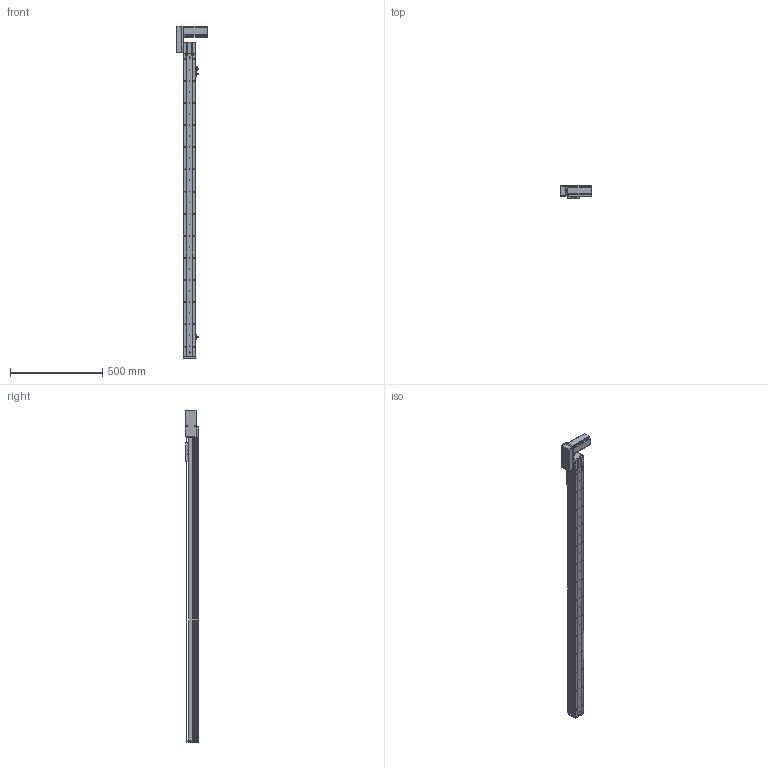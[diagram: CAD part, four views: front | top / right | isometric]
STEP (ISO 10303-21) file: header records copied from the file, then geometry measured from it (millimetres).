
FILE_DESCRIPTION (( 'STEP AP214' ), '1' );
FILE_NAME ('KSD68BS-S1450-MRB-CM.STEP', '2019-11-06T07:59:19', ( '微软用户' ), ( '微软中国' ), 'SwSTEP 2.0', 'SolidWorks 2014', '' );
FILE_SCHEMA (( 'AUTOMOTIVE_DESIGN' ));
Length unit declared in the file: millimetre
Products named in the file (11): 悵誘欶奻狟殏; 68宽马达安装板连板上折同步带; 68宽单导轨半封闭同步带主动轮座右; 68单导轨同步带半封闭端板; KSD68BS 1450俴最裔啣圉猾敕; 覜茼え68遵圉猾敕; KSD68BS半封闭同步带传动导轨座; U倰嫖萇EEㄜSX672; 台达ECMA－C20604AS伺服电机（400W); KSD68BS 1450俴最菁啣圉猾敕; KSD68BS-S1450-MRB-CM
Assembly tree (12 placements, depth 2):
  KSD68BS-S1450-MRB-CM
    KSD68BS 1450俴最菁啣圉猾敕
    台达ECMA－C20604AS伺服电机（400W)
    U倰嫖萇EEㄜSX672  x3
    KSD68BS半封闭同步带传动导轨座
    覜茼え68遵圉猾敕
    KSD68BS 1450俴最裔啣圉猾敕
    68单导轨同步带半封闭端板
    68宽单导轨半封闭同步带主动轮座右
    68宽马达安装板连板上折同步带
    悵誘欶奻狟殏
Bounding box: 167.2 x 70.5 x 1799.5 mm (x, y, z)
Volume: 2938450.6 mm3; surface area: 1079486.6 mm2
Topology: 13 solids, 13 shells, 1542 faces, 4498 edges, 2930 vertices
Faces by surface type: cylinder 804, plane 655, cone 83
Entity records: 59441 total; most frequent: CARTESIAN_POINT 11834, ORIENTED_EDGE 7748, DIRECTION 7528, EDGE_CURVE 3874, AXIS2_PLACEMENT_3D 2712, VERTEX_POINT 2554, VECTOR 2104, LINE 2104
